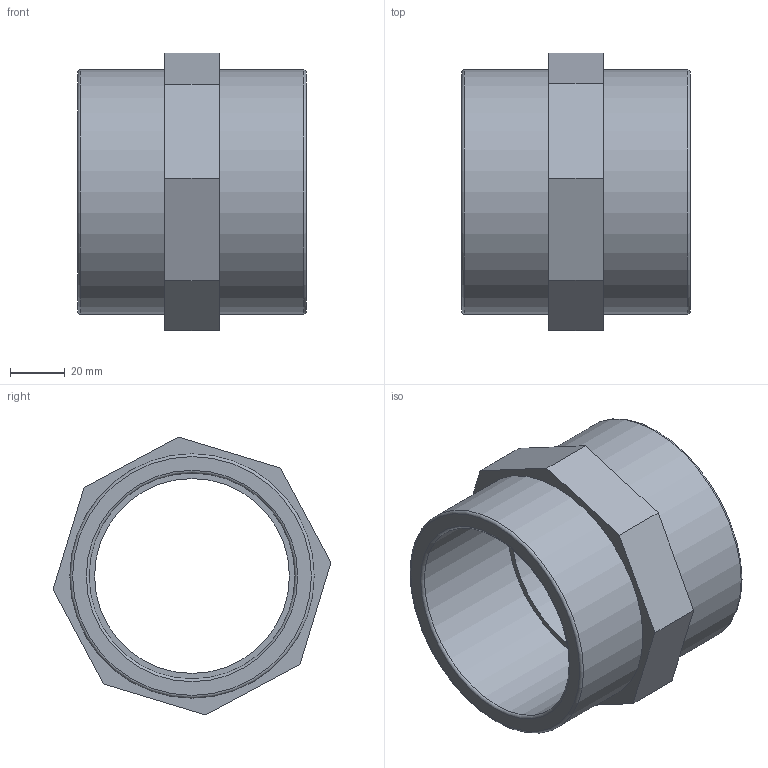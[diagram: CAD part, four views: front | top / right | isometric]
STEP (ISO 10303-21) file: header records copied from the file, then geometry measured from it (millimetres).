
FILE_DESCRIPTION(/* description */ (''),/* implementation_level */ '2;1');
FILE_NAME(/* name */ 'C:\Users\Gabriele\Desktop\disegni 3D\SO12\SO12075H.ipt.stp',/* time_stamp */ '2017-02-10T09:52:43+01:00',/* author */ ('Eugenio'),/* organization */ (''),/* preprocessor_version */ 'ST-DEVELOPER v16.5',/* originating_system */ 'Autodesk Inventor 2017',/* authorisation */ '');
FILE_SCHEMA (('AUTOMOTIVE_DESIGN { 1 0 10303 214 3 1 1 }'));
Length unit declared in the file: millimetre
Products named in the file (1): SO12075H
Bounding box: 83.2 x 101.26 x 101.26 mm (x, y, z)
Volume: 180436.5 mm3; surface area: 68468.2 mm2
Topology: 2 solids, 2 shells, 33 faces, 73 edges, 48 vertices
Faces by surface type: plane 16, cylinder 7, bspline 6, torus 4
Full cylindrical faces by diameter (mm): 71 x1, 75 x1, 75.18 x2, 89 x2
Entity records: 6639 total; most frequent: CARTESIAN_POINT 5964, ORIENTED_EDGE 122, DIRECTION 116, EDGE_CURVE 61, EDGE_LOOP 51, VERTEX_POINT 46, AXIS2_PLACEMENT_3D 46, FACE_OUTER_BOUND 33
